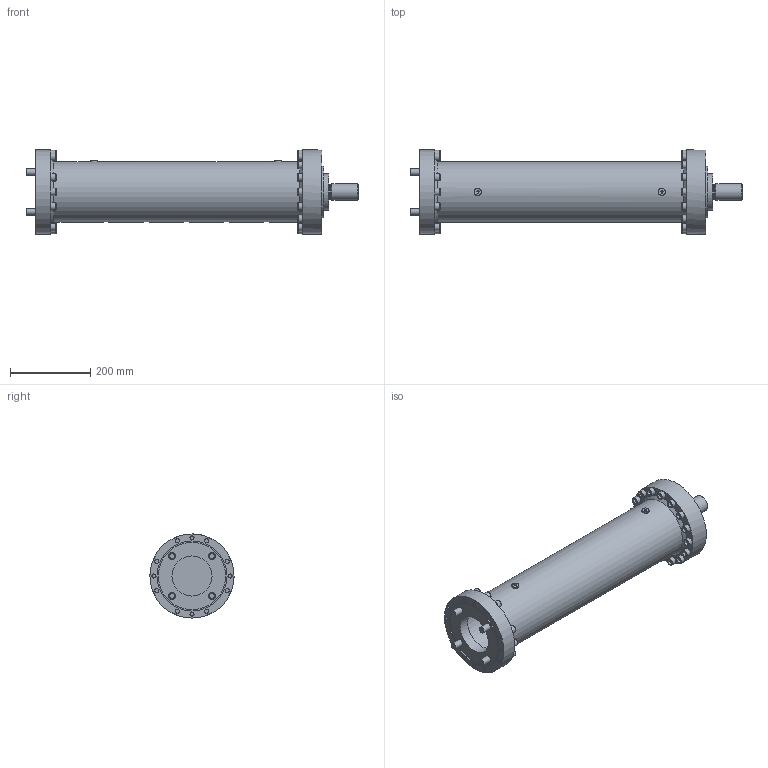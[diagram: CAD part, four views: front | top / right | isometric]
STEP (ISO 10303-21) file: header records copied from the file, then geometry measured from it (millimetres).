
FILE_DESCRIPTION((''),'2;1');
FILE_NAME('Open CASCADE Shape Model','2020-05-13T09:01:28',('cad'),(''), 'Open CASCADE STEP processor 7.3','Autodesk Inventor 2013','Unknown');
FILE_SCHEMA(('AUTOMOTIVE_DESIGN_CC2 { 1 2 10303 214 -1 1 5 4 }'));
Length unit declared in the file: millimetre
Products named in the file (1): LD.3..
Bounding box: 829.2 x 210 x 210 mm (x, y, z)
Volume: 6445264.3 mm3; surface area: 893543.9 mm2
Topology: 1 solids, 41 shells, 864 faces, 1947 edges, 1289 vertices
Faces by surface type: plane 474, cylinder 230, cone 100, torus 52, bspline 8
Full cylindrical faces by diameter (mm): 6 x2, 8 x6, 8.2 x6, 9 x6, 10.106 x24, 10.376 x4, 12 x28, 12.2 x2, 12.5 x28, 13 x34, 14 x6, 15 x6, 16 x4, 17 x6, 17.294 x4, 17.5 x4, 18 x30, 24 x4, 26 x4, 37.6 x1, 42 x1, 90 x1, 100 x1, 115 x1, 125 x1, 129 x1, 130 x1, 134 x5, 139 x2, 150 x1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
Entity records: 30422 total; most frequent: CARTESIAN_POINT 5967, ORIENTED_EDGE 3786, DIRECTION 3688, EDGE_CURVE 1893, AXIS2_PLACEMENT_3D 1596, VERTEX_POINT 1289, FACE_BOUND 1106, EDGE_LOOP 1106
